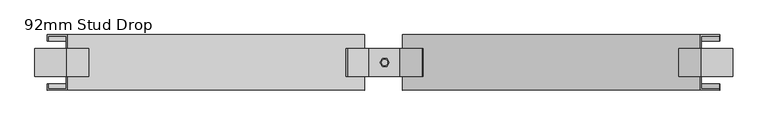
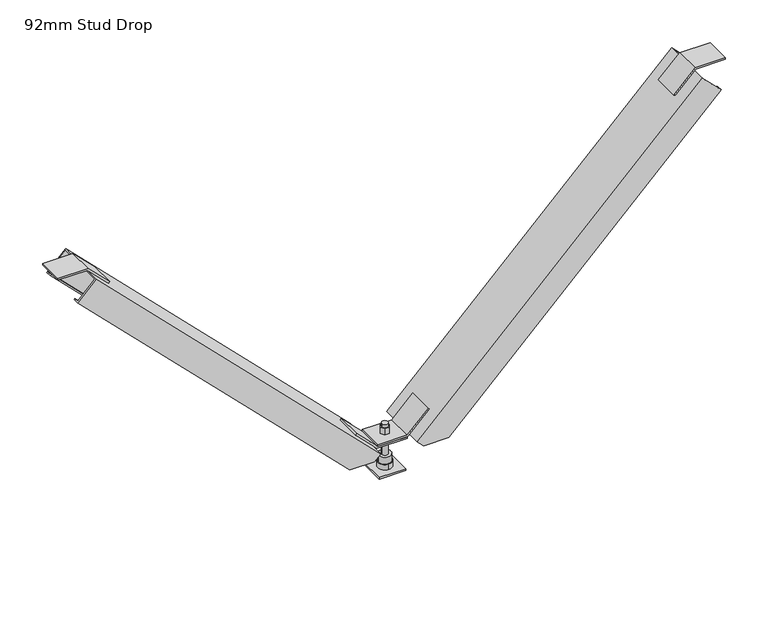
"""IFC4 building model written with IfcOpenShell, lengths in millimetres: beam geometry, Vertibrace Standard Brace : 92mm Stud Drop."""

from ifc_helpers import new_model, si_unit, frame, origin, origin_with_axes, place, context, project, spatial, polyline, circle_curve, outline, extrude, faceted_brep, source, transform, mapped, element, save
from ifc_brep_helpers import plane_surface, cylinder_surface, advanced_brep


def beam_92mm_stud_drop_c20c071f(model_context):
    return source(origin(), model_context, "Body", "SolidModel", [
        extrude(outline(polyline([(547.0013294, 513.8434194), (547.0013294, 563.8278886), (550.0, 563.8278886), (550.0, 512.6013294), (513.7773526, 476.378682), (511.6569723, 478.4990623), (547.0013294, 513.8434194)])), frame((0.0, -22.5, 0.0), z_axis=(0.0, 1.0, 0.0), x_axis=(0.0, 0.0, 1.0)), (0.0, 0.0, 1.0), 45.0),
        extrude(outline(polyline([(547.0013294, -516.535654), (511.6569723, -481.1912969), (513.7773526, -479.0709166), (550.0, -515.293564), (550.0, -566.5201232), (547.0013294, -566.5201232), (547.0013294, -516.535654)])), frame((0.0, -22.5, 0.0), z_axis=(0.0, 1.0, 0.0), x_axis=(0.0, 0.0, 1.0)), (0.0, 0.0, 1.0), 45.0),
        extrude(outline(polyline([(62.6986706, 24.9922346), (62.6986706, -24.9922346), (59.7, -24.9922346), (59.7, 26.2343246), (95.9226474, 62.456972), (98.0430277, 60.3365917), (62.6986706, 24.9922346)])), frame((0.0, -22.5, 0.0), z_axis=(0.0, 1.0, 0.0), x_axis=(0.0, 0.0, 1.0)), (0.0, 0.0, 1.0), 45.0),
        extrude(outline(polyline([(59.6986706, -24.9922346), (95.0430277, -60.3365917), (92.9226474, -62.456972), (56.7, -26.2343246), (56.7, 24.9922346), (59.6986706, 24.9922346), (59.6986706, -24.9922346)])), frame((0.0, -22.5, 0.0), z_axis=(0.0, 1.0, 0.0), x_axis=(0.0, 0.0, 1.0)), (0.0, 0.0, 1.0), 45.0),
        extrude(outline(polyline([(22.5, 22.5), (22.5, -22.5), (-22.5, -22.5), (-22.5, 22.5), (22.5, 22.5)])), origin_with_axes(), (0.0, 0.0, 1.0), 3.0),
        advanced_brep(
        [(-5.0, 0.0, -10.0), (5.0, 0.0, -10.0), (-5.0, 0.0, 80.0), (5.0, 0.0, 80.0), (5.0, 0.0, 3.0), (-5.0, 0.0, 3.0), (-5.0, 0.0, 74.4), (5.0, 0.0, 74.4), (-5.0, 0.0, 25.0), (5.0, 0.0, 25.0), (5.0, 0.0, 50.0), (-5.0, 0.0, 50.0), (5.0, 0.0, 62.7), (-5.0, 0.0, 62.7), (-5.0, 0.0, 56.7), (5.0, 0.0, 56.7), (-10.5, 0.0, 25.0), (10.5, 0.0, 25.0), (-10.5, 0.0, 13.0), (10.5, 0.0, 13.0), (0.0, -12.0, 13.0), (0.0, 12.0, 13.0), (3.75, 6.4951905, 74.4), (-3.75, 6.4951905, 74.4), (-7.5, 0.0, 74.4), (-3.75, -6.4951905, 74.4), (3.75, -6.4951905, 74.4), (7.5, 0.0, 74.4), (3.75, 6.4951905, 62.7), (7.5, 0.0, 62.7), (3.75, -6.4951905, 62.7), (-3.75, -6.4951905, 62.7), (-7.5, 0.0, 62.7), (-3.75, 6.4951905, 62.7), (-10.9696551, 0.0, 56.7), (-5.4848276, -9.5, 56.7), (5.4848276, -9.5, 56.7), (10.9696551, 0.0, 56.7), (5.4848276, 9.5, 56.7), (-5.4848276, 9.5, 56.7), (-10.9696551, 0.0, 50.0), (-5.4848276, 9.5, 50.0), (5.4848276, 9.5, 50.0), (10.9696551, 0.0, 50.0), (5.4848276, -9.5, 50.0), (-5.4848276, -9.5, 50.0), (0.0, -12.0, 3.0), (0.0, 12.0, 3.0)],
        [
            (0, 1, circle_curve(frame((0.0, 0.0, -10.0), z_axis=(0.0, 0.0, -1.0), x_axis=(1.0, 0.0, 0.0)), 5.0)),
            (1, 0, circle_curve(frame((0.0, 0.0, -10.0), z_axis=(0.0, 0.0, -1.0), x_axis=(1.0, 0.0, 0.0)), 5.0)),
            (2, 3, circle_curve(frame((0.0, 0.0, 80.0), z_axis=(0.0, 0.0, 1.0), x_axis=(1.0, 0.0, 0.0)), 5.0)),
            (3, 2, circle_curve(frame((0.0, 0.0, 80.0), z_axis=(0.0, 0.0, 1.0), x_axis=(1.0, 0.0, 0.0)), 5.0)),
            (1, 4),
            (4, 5, circle_curve(frame((0.0, 0.0, 3.0), z_axis=(0.0, 0.0, -1.0), x_axis=(1.0, 0.0, 0.0)), 5.0)),
            (5, 0),
            (2, 6),
            (6, 7, circle_curve(frame((0.0, 0.0, 74.4), z_axis=(0.0, 0.0, 1.0), x_axis=(1.0, 0.0, 0.0)), 5.0)),
            (7, 3),
            (8, 9, circle_curve(frame((0.0, 0.0, 25.0), z_axis=(0.0, 0.0, 1.0), x_axis=(1.0, 0.0, 0.0)), 5.0)),
            (9, 10),
            (10, 11, circle_curve(frame((0.0, 0.0, 50.0), z_axis=(0.0, 0.0, -1.0), x_axis=(1.0, 0.0, 0.0)), 5.0)),
            (11, 8),
            (12, 13, circle_curve(frame((0.0, 0.0, 62.7), z_axis=(0.0, 0.0, -1.0), x_axis=(1.0, 0.0, 0.0)), 5.0)),
            (13, 14),
            (14, 15, circle_curve(frame((0.0, 0.0, 56.7), z_axis=(0.0, 0.0, 1.0), x_axis=(1.0, 0.0, 0.0)), 5.0)),
            (15, 12),
            (5, 4, circle_curve(frame((0.0, 0.0, 3.0), z_axis=(0.0, 0.0, -1.0), x_axis=(1.0, 0.0, 0.0)), 5.0)),
            (7, 6, circle_curve(frame((0.0, 0.0, 74.4), z_axis=(0.0, 0.0, 1.0), x_axis=(1.0, 0.0, 0.0)), 5.0)),
            (9, 8, circle_curve(frame((0.0, 0.0, 25.0), z_axis=(0.0, 0.0, 1.0), x_axis=(1.0, 0.0, 0.0)), 5.0)),
            (11, 10, circle_curve(frame((0.0, 0.0, 50.0), z_axis=(0.0, 0.0, -1.0), x_axis=(1.0, 0.0, 0.0)), 5.0)),
            (13, 12, circle_curve(frame((0.0, 0.0, 62.7), z_axis=(0.0, 0.0, -1.0), x_axis=(1.0, 0.0, 0.0)), 5.0)),
            (15, 14, circle_curve(frame((0.0, 0.0, 56.7), z_axis=(0.0, 0.0, 1.0), x_axis=(1.0, 0.0, 0.0)), 5.0)),
            (16, 17, circle_curve(frame((0.0, 0.0, 25.0), z_axis=(0.0, 0.0, 1.0), x_axis=(1.0, 0.0, 0.0)), 10.5)),
            (17, 16, circle_curve(frame((0.0, 0.0, 25.0), z_axis=(0.0, 0.0, 1.0), x_axis=(1.0, 0.0, 0.0)), 10.5)),
            (16, 18),
            (18, 19, circle_curve(frame((0.0, 0.0, 13.0), z_axis=(0.0, 0.0, 1.0), x_axis=(1.0, 0.0, 0.0)), 10.5)),
            (19, 17),
            (19, 18, circle_curve(frame((0.0, 0.0, 13.0), z_axis=(0.0, 0.0, 1.0), x_axis=(1.0, 0.0, 0.0)), 10.5)),
            (20, 21, circle_curve(frame((0.0, 0.0, 13.0), z_axis=(0.0, 0.0, 1.0), x_axis=(0.0, 1.0, 0.0)), 12.0)),
            (21, 20, circle_curve(frame((0.0, 0.0, 13.0), z_axis=(0.0, 0.0, 1.0), x_axis=(0.0, 1.0, 0.0)), 12.0)),
            (22, 23),
            (23, 24),
            (24, 25),
            (25, 26),
            (26, 27),
            (27, 22),
            (28, 29),
            (29, 30),
            (30, 31),
            (31, 32),
            (32, 33),
            (33, 28),
            (22, 28),
            (33, 23),
            (32, 24),
            (31, 25),
            (30, 26),
            (29, 27),
            (34, 35),
            (35, 36),
            (36, 37),
            (37, 38),
            (38, 39),
            (39, 34),
            (40, 41),
            (41, 42),
            (42, 43),
            (43, 44),
            (44, 45),
            (45, 40),
            (34, 40),
            (45, 35),
            (44, 36),
            (43, 37),
            (42, 38),
            (41, 39),
            (46, 47, circle_curve(frame((0.0, 0.0, 3.0), z_axis=(0.0, 0.0, -1.0), x_axis=(0.0, 1.0, 0.0)), 12.0)),
            (47, 46, circle_curve(frame((0.0, 0.0, 3.0), z_axis=(0.0, 0.0, -1.0), x_axis=(0.0, 1.0, 0.0)), 12.0)),
            (47, 21),
            (20, 46),
        ],
        [
            plane_surface(frame((5.0, 0.0, -10.0), z_axis=(0.0, 0.0, -1.0), x_axis=(0.0, -1.0, 0.0))),
            plane_surface(frame((5.0, 0.0, 80.0), z_axis=(0.0, 0.0, 1.0), x_axis=(0.0, 1.0, 0.0))),
            cylinder_surface(frame((0.0, 0.0, -10.0), z_axis=(0.0, 0.0, 1.0), x_axis=(1.0, 0.0, 0.0)), 5.0),
            plane_surface(frame((10.5, 0.0, 25.0), z_axis=(0.0, 0.0, 1.0), x_axis=(0.0, 1.0, 0.0))),
            cylinder_surface(frame((0.0, 0.0, 13.0), z_axis=(0.0, 0.0, 1.0), x_axis=(1.0, 0.0, 0.0)), 10.5),
            plane_surface(frame((0.0, 12.0, 13.0), z_axis=(0.0, 0.0, 1.0), x_axis=(-1.0, 0.0, 0.0))),
            plane_surface(frame((3.75, 6.4951905, 74.4), z_axis=(0.0, 0.0, 1.0), x_axis=(-1.0, 0.0, 0.0))),
            plane_surface(frame((3.75, 6.4951905, 62.7), z_axis=(0.0, 0.0, -1.0), x_axis=(1.0, 0.0, 0.0))),
            plane_surface(frame((3.75, 6.4951905, 74.4), z_axis=(0.0, 1.0, 0.0), x_axis=(0.0, 0.0, -1.0))),
            plane_surface(frame((-3.75, 6.4951905, 74.4), z_axis=(-0.866025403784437, 0.5000000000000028, 0.0), x_axis=(0.0, 0.0, -1.0))),
            plane_surface(frame((-7.5, 0.0, 74.4), z_axis=(-0.8660254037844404, -0.4999999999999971, 0.0), x_axis=(0.0, 0.0, -1.0))),
            plane_surface(frame((-3.75, -6.4951905, 74.4), z_axis=(0.0, -1.0, 0.0), x_axis=(0.0, 0.0, -1.0))),
            plane_surface(frame((3.75, -6.4951905, 74.4), z_axis=(0.8660254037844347, -0.500000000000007, 0.0), x_axis=(0.0, 0.0, -1.0))),
            plane_surface(frame((7.5, 0.0, 74.4), z_axis=(0.8660254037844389, 0.49999999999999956, 0.0), x_axis=(0.0, 0.0, -1.0))),
            plane_surface(frame((-10.9696551, 0.0, 56.7), z_axis=(0.0, 0.0, 1.0), x_axis=(0.49999999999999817, -0.8660254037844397, 0.0))),
            plane_surface(frame((-10.9696551, 0.0, 50.0), z_axis=(0.0, 0.0, -1.0), x_axis=(-0.49999999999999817, 0.8660254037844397, 0.0))),
            plane_surface(frame((-10.9696551, 0.0, 56.7), z_axis=(-0.8660254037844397, -0.49999999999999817, 0.0), x_axis=(0.0, 0.0, -1.0))),
            plane_surface(frame((-5.4848276, -9.5, 56.7), z_axis=(0.0, -1.0, 0.0), x_axis=(0.0, 0.0, -1.0))),
            plane_surface(frame((5.4848276, -9.5, 56.7), z_axis=(0.8660254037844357, -0.5000000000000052, 0.0), x_axis=(0.0, 0.0, -1.0))),
            plane_surface(frame((10.9696551, 0.0, 56.7), z_axis=(0.8660254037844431, 0.49999999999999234, 0.0), x_axis=(0.0, 0.0, -1.0))),
            plane_surface(frame((5.4848276, 9.5, 56.7), z_axis=(0.0, 1.0, 0.0), x_axis=(0.0, 0.0, -1.0))),
            plane_surface(frame((-5.4848276, 9.5, 56.7), z_axis=(-0.866025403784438, 0.5000000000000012, 0.0), x_axis=(0.0, 0.0, -1.0))),
            plane_surface(frame((0.0, 12.0, 3.0), z_axis=(0.0, 0.0, -1.0), x_axis=(1.0, 0.0, 0.0))),
            cylinder_surface(frame((0.0, 0.0, 3.0), z_axis=(0.0, 0.0, 1.0), x_axis=(0.0, 1.0, 0.0)), 12.0),
        ],
        [
            (0, [[1, 2]]),
            (1, [[3, 4]]),
            (2, [[-2, 5, 6, 7]]),
            (2, [[-3, 8, 9, 10]]),
            (2, [[11, 12, 13, 14]]),
            (2, [[15, 16, 17, 18]]),
            (2, [[-1, -7, 19, -5]]),
            (2, [[-4, -10, 20, -8]]),
            (2, [[21, -14, 22, -12]]),
            (2, [[23, -18, 24, -16]]),
            (3, [[25, 26], [-11, -21]]),
            (4, [[-25, 27, 28, 29]]),
            (4, [[-26, -29, 30, -27]]),
            (5, [[31, 32], [-28, -30]]),
            (6, [[33, 34, 35, 36, 37, 38], [-9, -20]]),
            (7, [[39, 40, 41, 42, 43, 44], [-15, -23]]),
            (8, [[-33, 45, -44, 46]]),
            (9, [[-34, -46, -43, 47]]),
            (10, [[-35, -47, -42, 48]]),
            (11, [[-36, -48, -41, 49]]),
            (12, [[-37, -49, -40, 50]]),
            (13, [[-38, -50, -39, -45]]),
            (14, [[51, 52, 53, 54, 55, 56], [-17, -24]]),
            (15, [[57, 58, 59, 60, 61, 62], [-13, -22]]),
            (16, [[-51, 63, -62, 64]]),
            (17, [[-52, -64, -61, 65]]),
            (18, [[-53, -65, -60, 66]]),
            (19, [[-54, -66, -59, 67]]),
            (20, [[-55, -67, -58, 68]]),
            (21, [[-56, -68, -57, -63]]),
            (22, [[69, 70], [-6, -19]]),
            (23, [[-70, 71, -31, 72]]),
            (23, [[-69, -72, -32, -71]]),
        ],
    ),
        faceted_brep([(39.9343246, 43.0, 52.0), (39.9343246, 45.0, 52.0), (82.1739349, 45.0, 52.0), (82.1739349, 35.0, 52.0), (79.3455078, 35.0, 52.0), (79.3455078, 43.0, 52.0), (39.9343246, -45.0, 52.0), (39.9343246, -43.0, 52.0), (79.3455078, -43.0, 52.0), (79.3455078, -35.0, 52.0), (82.1739349, -35.0, 52.0), (82.1739349, -45.0, 52.0), (30.6485382, 43.0, 61.2857864), (30.6485382, -43.0, 61.2857864), (29.2343246, -45.0, 62.7), (29.2343246, 45.0, 62.7), (511.5343246, 45.0, 545.0), (511.5343246, -45.0, 545.0), (543.3541298, -45.0, 513.1801948), (543.3541298, -35.0, 513.1801948), (541.9399162, -35.0, 514.5944084), (541.9399162, -43.0, 514.5944084), (512.9485382, -43.0, 543.5857864), (512.9485382, 43.0, 543.5857864), (541.9399162, 43.0, 514.5944084), (541.9399162, 35.0, 514.5944084), (543.3541298, 35.0, 513.1801948), (543.3541298, 45.0, 513.1801948)], [[[0, 1, 2, 3, 4, 5]], [[6, 7, 8, 9, 10, 11]], [[12, 13, 7, 6, 14, 15, 1, 0]], [[16, 17, 18, 19, 20, 21, 22, 23, 24, 25, 26, 27]], [[16, 27, 2, 1, 15]], [[27, 26, 3, 2]], [[26, 25, 4, 3]], [[25, 24, 5, 4]], [[24, 23, 12, 0, 5]], [[13, 12, 23, 22]], [[22, 21, 8, 7, 13]], [[21, 20, 9, 8]], [[20, 19, 10, 9]], [[19, 18, 11, 10]], [[18, 17, 14, 6, 11]], [[15, 14, 17, 16]]]),
        faceted_brep([(-33.9485382, -43.0, 61.5857864), (-33.9485382, 43.0, 61.5857864), (-43.5343246, 43.0, 52.0), (-43.5343246, 45.0, 52.0), (-32.5343246, 45.0, 63.0), (-32.5343246, -45.0, 63.0), (-43.5343246, -45.0, 52.0), (-43.5343246, -43.0, 52.0), (-514.4883773, -45.0, 544.9540527), (-514.4883773, 45.0, 544.9540527), (-546.3081825, 45.0, 513.1342476), (-546.3081825, 35.0, 513.1342476), (-544.8939689, 35.0, 514.5484611), (-544.8939689, 43.0, 514.5484611), (-515.9025909, 43.0, 543.5398392), (-515.9025909, -43.0, 543.5398392), (-544.8939689, -43.0, 514.5484611), (-544.8939689, -35.0, 514.5484611), (-546.3081825, -35.0, 513.1342476), (-546.3081825, -45.0, 513.1342476), (-85.1739349, -45.0, 52.0), (-85.1739349, -35.0, 52.0), (-85.1739349, 45.0, 52.0), (-82.3455078, 43.0, 52.0), (-82.3455078, 35.0, 52.0), (-85.1739349, 35.0, 52.0), (-82.3455078, -35.0, 52.0), (-82.3455078, -43.0, 52.0)], [[[0, 1, 2, 3, 4, 5, 6, 7]], [[8, 9, 10, 11, 12, 13, 14, 15, 16, 17, 18, 19]], [[8, 19, 20, 6, 5]], [[19, 18, 21, 20]], [[10, 9, 4, 3, 22]], [[5, 4, 9, 8]], [[3, 2, 23, 24, 25, 22]], [[7, 6, 20, 21, 26, 27]], [[18, 17, 26, 21]], [[17, 16, 27, 26]], [[16, 15, 0, 7, 27]], [[1, 0, 15, 14]], [[14, 13, 23, 2, 1]], [[13, 12, 24, 23]], [[12, 11, 25, 24]], [[11, 10, 22, 25]]]),
    ])


if __name__ == "__main__":
    model = new_model("IFC4")
    model_context = context("Model", 3, world=origin())
    ifc_project = project(units=[si_unit("LENGTHUNIT", "METRE", prefix="MILLI")], contexts=[model_context])
    site = spatial("IfcSite", under=ifc_project)
    building = spatial("IfcBuilding", under=site)
    placement = place(None, origin())
    beam_92mm_stud_drop_shape = beam_92mm_stud_drop_c20c071f(model_context)
    element("IfcBeam", 1, ObjectType="Vertibrace Standard Brace : 92mm Stud Drop", at=placement, inside=building, context=model_context, shape_type="MappedRepresentation", body=[
        mapped(beam_92mm_stud_drop_shape, transform((0.0, 0.0, 0.0), x_axis=(1.0, 0.0, 0.0), y_axis=(0.0, 1.0, 0.0), z_axis=(0.0, 0.0, 1.0))),
    ])
    save(model, "model.ifc")
